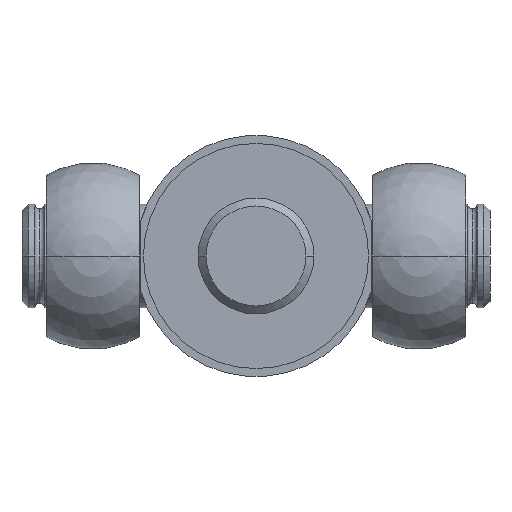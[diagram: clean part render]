
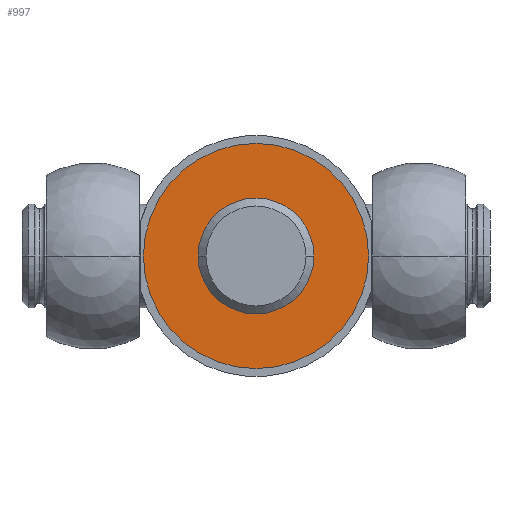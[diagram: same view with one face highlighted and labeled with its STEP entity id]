
A CAD part, front view. The second image highlights one B-rep face of the part: STEP entity #997.
In plain terms, the highlighted planar face has unit normal (0, -1, 0).
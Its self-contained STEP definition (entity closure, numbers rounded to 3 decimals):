
#603 = EDGE_CURVE( '', #655, #629, #1394, .T. );
#629 = VERTEX_POINT( '', #1423 );
#655 = VERTEX_POINT( '', #1453 );
#875 = EDGE_CURVE( '', #1099, #961, #1692, .T. );
#911 = EDGE_CURVE( '', #961, #1099, #1733, .T. );
#961 = VERTEX_POINT( '', #1791 );
#997 = ADVANCED_FACE( '', ( #1831, #1832 ), #1833, .T. );
#1017 = EDGE_CURVE( '', #629, #655, #1855, .T. );
#1099 = VERTEX_POINT( '', #1945 );
#1394 = CIRCLE( '', #2376, 35. );
#1423 = CARTESIAN_POINT( '', ( -35., 0., 0. ) );
#1453 = CARTESIAN_POINT( '', ( 35., 0., 0. ) );
#1692 = CIRCLE( '', #2833, 18. );
#1733 = CIRCLE( '', #2896, 18. );
#1791 = CARTESIAN_POINT( '', ( 18., 0., 0. ) );
#1831 = FACE_OUTER_BOUND( '', #3043, .T. );
#1832 = FACE_BOUND( '', #3044, .T. );
#1833 = PLANE( '', #3045 );
#1855 = CIRCLE( '', #3073, 35. );
#1945 = CARTESIAN_POINT( '', ( -18., 0., 0. ) );
#2376 = AXIS2_PLACEMENT_3D( '', #3590, #3591, #3592 );
#2833 = AXIS2_PLACEMENT_3D( '', #3951, #3952, #3953 );
#2896 = AXIS2_PLACEMENT_3D( '', #4013, #4014, #4015 );
#3043 = EDGE_LOOP( '', ( #4142, #4143 ) );
#3044 = EDGE_LOOP( '', ( #4144, #4145 ) );
#3045 = AXIS2_PLACEMENT_3D( '', #4146, #4147, #4148 );
#3073 = AXIS2_PLACEMENT_3D( '', #4177, #4178, #4179 );
#3590 = CARTESIAN_POINT( '', ( 0., 0., 0. ) );
#3591 = DIRECTION( '', ( 0., 1., 0. ) );
#3592 = DIRECTION( '', ( 1., 0., 0. ) );
#3951 = CARTESIAN_POINT( '', ( 0., 0., 0. ) );
#3952 = DIRECTION( '', ( 0., 1., 0. ) );
#3953 = DIRECTION( '', ( 1., 0., 0. ) );
#4013 = CARTESIAN_POINT( '', ( 0., 0., 0. ) );
#4014 = DIRECTION( '', ( 0., 1., 0. ) );
#4015 = DIRECTION( '', ( 1., 0., 0. ) );
#4142 = ORIENTED_EDGE( '', *, *, #603, .F. );
#4143 = ORIENTED_EDGE( '', *, *, #1017, .F. );
#4144 = ORIENTED_EDGE( '', *, *, #911, .T. );
#4145 = ORIENTED_EDGE( '', *, *, #875, .T. );
#4146 = CARTESIAN_POINT( '', ( 26.5, 0., 0. ) );
#4147 = DIRECTION( '', ( 0., -1., 0. ) );
#4148 = DIRECTION( '', ( -1., 0., 0. ) );
#4177 = CARTESIAN_POINT( '', ( 0., 0., 0. ) );
#4178 = DIRECTION( '', ( 0., 1., 0. ) );
#4179 = DIRECTION( '', ( 1., 0., 0. ) );
